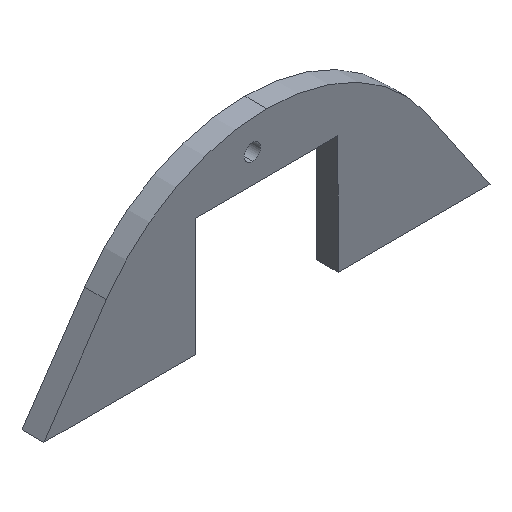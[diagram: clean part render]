
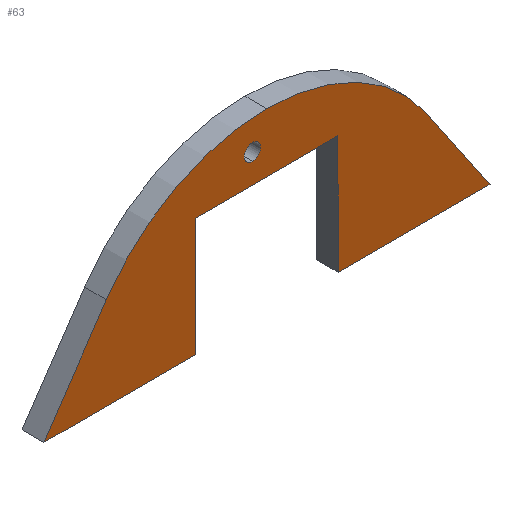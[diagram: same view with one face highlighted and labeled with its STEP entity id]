
A CAD part, isometric view. The second image highlights one B-rep face of the part: STEP entity #63.
In plain terms, the highlighted planar face has unit normal (0, -1, 0).
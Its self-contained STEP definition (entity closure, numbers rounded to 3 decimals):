
#63=ADVANCED_FACE('',(#91,#92),#93,.F.);
#91=FACE_OUTER_BOUND('',#120,.T.);
#92=FACE_BOUND('',#121,.T.);
#93=PLANE('',#122);
#120=EDGE_LOOP('',(#215,#216,#217,#218,#219,#220,#221,#222,#223));
#121=EDGE_LOOP('',(#224,#225));
#122=AXIS2_PLACEMENT_3D('',#226,#227,#228);
#215=ORIENTED_EDGE('',*,*,#238,.T.);
#216=ORIENTED_EDGE('',*,*,#257,.F.);
#217=ORIENTED_EDGE('',*,*,#262,.F.);
#218=ORIENTED_EDGE('',*,*,#260,.F.);
#219=ORIENTED_EDGE('',*,*,#233,.F.);
#220=ORIENTED_EDGE('',*,*,#259,.F.);
#221=ORIENTED_EDGE('',*,*,#254,.F.);
#222=ORIENTED_EDGE('',*,*,#245,.T.);
#223=ORIENTED_EDGE('',*,*,#242,.T.);
#224=ORIENTED_EDGE('',*,*,#235,.T.);
#225=ORIENTED_EDGE('',*,*,#258,.T.);
#226=CARTESIAN_POINT('',(45.437,23.5,7.617));
#227=DIRECTION('',(0.,1.0,0.));
#228=DIRECTION('',(0.002,0.,-1.));
#233=EDGE_CURVE('',#268,#264,#270,.T.);
#235=EDGE_CURVE('',#274,#271,#275,.T.);
#238=EDGE_CURVE('',#279,#280,#281,.T.);
#242=EDGE_CURVE('',#287,#279,#288,.T.);
#245=EDGE_CURVE('',#292,#287,#293,.T.);
#254=EDGE_CURVE('',#292,#306,#307,.T.);
#257=EDGE_CURVE('',#309,#280,#311,.T.);
#258=EDGE_CURVE('',#271,#274,#312,.T.);
#259=EDGE_CURVE('',#306,#268,#313,.T.);
#260=EDGE_CURVE('',#264,#314,#315,.T.);
#262=EDGE_CURVE('',#314,#309,#317,.T.);
#264=VERTEX_POINT('',#319);
#268=VERTEX_POINT('',#324);
#270=CIRCLE('',#327,17.7);
#271=VERTEX_POINT('',#328);
#274=VERTEX_POINT('',#332);
#275=CIRCLE('',#333,0.75);
#279=VERTEX_POINT('',#338);
#280=VERTEX_POINT('',#339);
#281=LINE('',#340,#341);
#287=VERTEX_POINT('',#350);
#288=LINE('',#351,#352);
#292=VERTEX_POINT('',#358);
#293=LINE('',#359,#360);
#306=VERTEX_POINT('',#379);
#307=LINE('',#380,#381);
#309=VERTEX_POINT('',#384);
#311=LINE('',#387,#388);
#312=CIRCLE('',#389,0.75);
#313=LINE('',#390,#391);
#314=VERTEX_POINT('',#392);
#315=CIRCLE('',#393,17.7);
#317=LINE('',#396,#397);
#319=CARTESIAN_POINT('',(45.427,23.5,18.219));
#324=CARTESIAN_POINT('',(30.782,23.5,10.435));
#327=AXIS2_PLACEMENT_3D('',#403,#404,#405);
#328=CARTESIAN_POINT('',(44.108,23.5,14.708));
#332=CARTESIAN_POINT('',(44.105,23.5,16.208));
#333=AXIS2_PLACEMENT_3D('',#407,#408,#409);
#338=CARTESIAN_POINT('',(51.922,23.5,12.825));
#339=CARTESIAN_POINT('',(51.942,23.5,2.025));
#340=CARTESIAN_POINT('',(51.927,23.5,10.227));
#341=VECTOR('',#414,1.0);
#350=CARTESIAN_POINT('',(38.922,23.5,12.801));
#351=CARTESIAN_POINT('',(42.174,23.5,12.807));
#352=VECTOR('',#418,1.0);
#358=CARTESIAN_POINT('',(38.942,23.5,2.013));
#359=CARTESIAN_POINT('',(38.939,23.5,3.526));
#360=VECTOR('',#421,1.0);
#379=CARTESIAN_POINT('',(25.077,23.5,2.));
#380=CARTESIAN_POINT('',(65.807,23.5,2.039));
#381=VECTOR('',#434,1.0);
#384=CARTESIAN_POINT('',(65.807,23.5,2.039));
#387=CARTESIAN_POINT('',(65.807,23.5,2.039));
#388=VECTOR('',#437,1.0);
#389=AXIS2_PLACEMENT_3D('',#438,#439,#440);
#390=CARTESIAN_POINT('',(25.077,23.5,2.));
#391=VECTOR('',#441,1.0);
#392=CARTESIAN_POINT('',(60.087,23.5,10.463));
#393=AXIS2_PLACEMENT_3D('',#442,#443,#444);
#396=CARTESIAN_POINT('',(60.087,23.5,10.463));
#397=VECTOR('',#446,1.);
#403=CARTESIAN_POINT('',(45.444,23.5,0.519));
#404=DIRECTION('',(0.,1.0,0.));
#405=DIRECTION('',(-0.001,0.,1.));
#407=CARTESIAN_POINT('',(44.107,23.5,15.458));
#408=DIRECTION('',(0.,1.0,0.));
#409=DIRECTION('',(0.002,0.0,-1.));
#414=DIRECTION('',(0.002,0.0,-1.));
#418=DIRECTION('',(1.,0.,0.002));
#421=DIRECTION('',(-0.002,0.0,1.));
#434=DIRECTION('',(-1.,0.,-0.001));
#437=DIRECTION('',(-1.,0.,-0.001));
#438=CARTESIAN_POINT('',(44.107,23.5,15.458));
#439=DIRECTION('',(0.,1.0,0.));
#440=DIRECTION('',(0.002,0.0,-1.));
#441=DIRECTION('',(0.56,0.,0.828));
#442=CARTESIAN_POINT('',(45.444,23.5,0.519));
#443=DIRECTION('',(0.,1.0,0.));
#444=DIRECTION('',(-0.001,0.,1.));
#446=DIRECTION('',(0.562,0.,-0.827));
